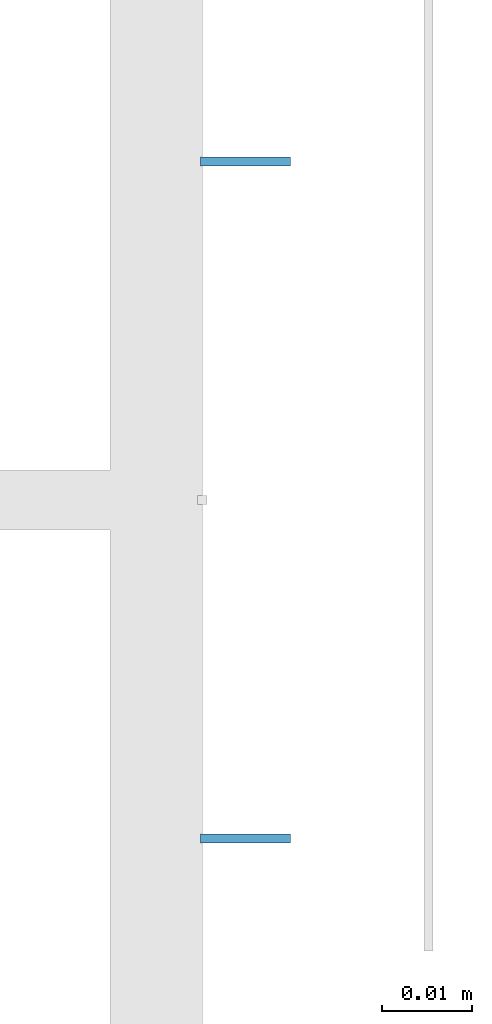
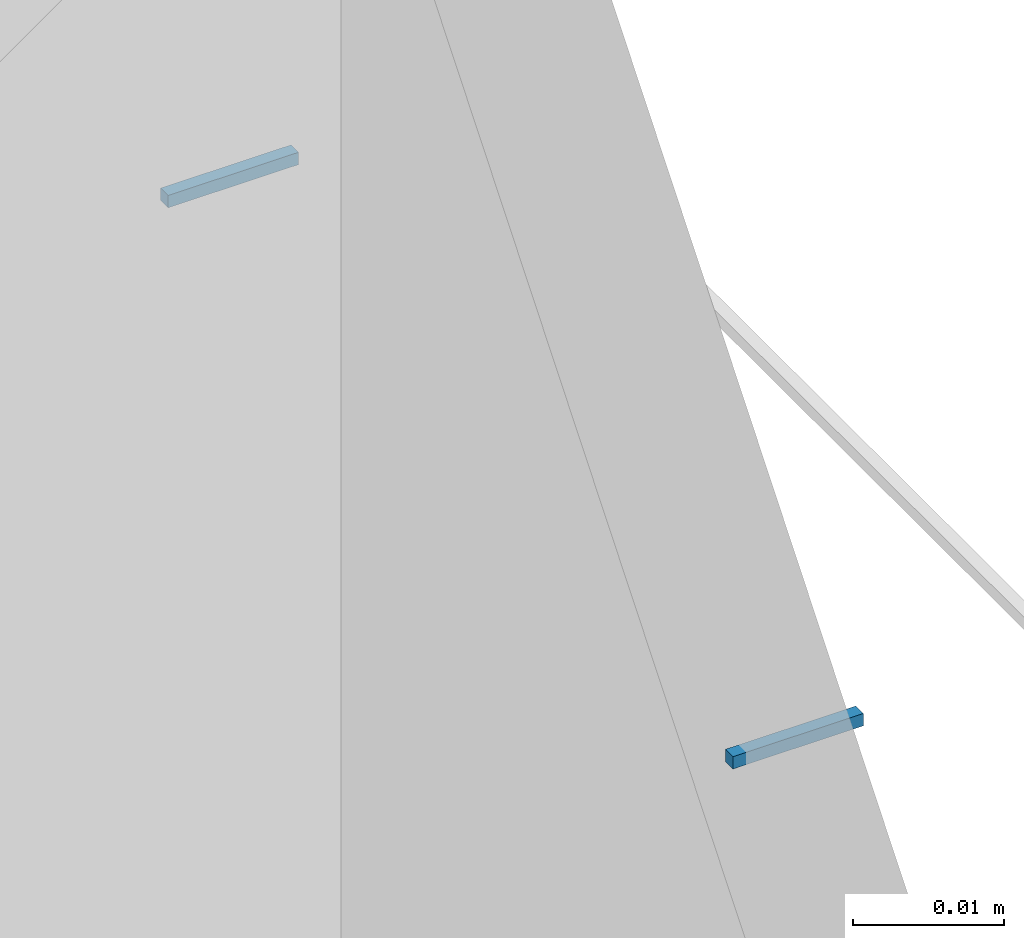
# One storey, part 77 of 186: 2 beams.
"""IFC4X3_ADD2 building model written with IfcOpenShell, lengths in millimetres."""

from ifc_helpers import new_model, si_unit, direction, frame, frame_2d, origin_with_axes, place, context, subcontext, project, spatial, rectangle, extrude, material, element, save


model = new_model("IFC4X3_ADD2")

# Units and contexts
model_context = context("Model", 3, precision=1e-05, world=origin_with_axes(), true_north=direction((0.0, 1.0)))
body_context = subcontext(model_context, "Body", "Model", "MODEL_VIEW")
ifc_project = project(units=[si_unit("LENGTHUNIT", "METRE", prefix="MILLI"), si_unit("AREAUNIT", "SQUARE_METRE"), si_unit("VOLUMEUNIT", "CUBIC_METRE"), si_unit("PLANEANGLEUNIT", "RADIAN"), si_unit("TIMEUNIT", "SECOND"), si_unit("MASSUNIT", "GRAM")], contexts=[model_context])

# Site, building, storey
site_placement = place(None, origin_with_axes())
site = spatial("IfcSite", under=ifc_project, at=site_placement, Name="Site", CompositionType="ELEMENT")
building_placement = place(site_placement, origin_with_axes())
building = spatial("IfcBuilding", under=site, at=building_placement, Name="IFC Building Story")
storey_placement = place(building_placement, frame((0.0, 0.0, 4370.0), z_axis=(0.0, 0.0, 1.0), x_axis=(1.0, 0.0, 0.0)))
storey = spatial("IfcBuildingStorey", under=building, at=storey_placement, Name="ETAGE 10 (1)", Elevation=4370.0)

# Beams
ifc_material = material(Name="STEEL/Accessory_invisible")
for number, where, z_axis, x_axis, name in (
    (1, (4787.889777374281, 13537.4997253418, 3789.5), (-1.0, 0.0, 0.0), (0.0, 1.0, 0.0), "MP21"),
    (2, (4787.889777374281, 13462.4997253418, 3789.5), (-1.0, 0.0, 0.0), (0.0, 1.0, 0.0), "MP21"),
):
    element("IfcBeam", number, at=place(storey_placement, frame(where, z_axis=z_axis, x_axis=x_axis)), inside=storey, material=ifc_material, Name=name, ObjectType="1*1 3", context=body_context, shape_type="SweptSolid", body=[
        extrude(rectangle(XDim=0.9999999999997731, YDim=0.9999999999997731, at=frame_2d((0.0, 5.95523630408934e-12), x_axis=(1.0, 0.0))), origin_with_axes(), (0.0, 0.0, 1.0), 10.0),
    ])

save(model, "model.ifc")
